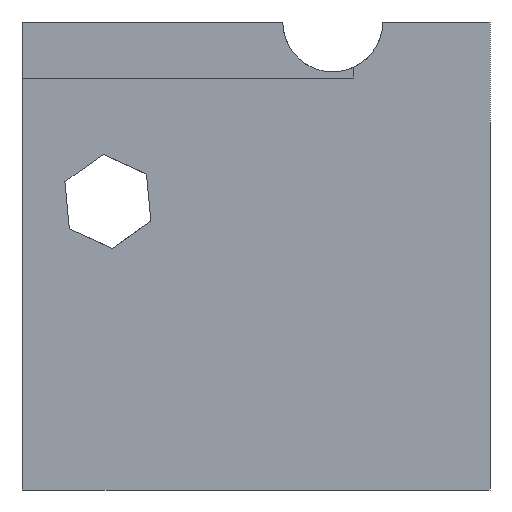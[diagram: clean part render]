
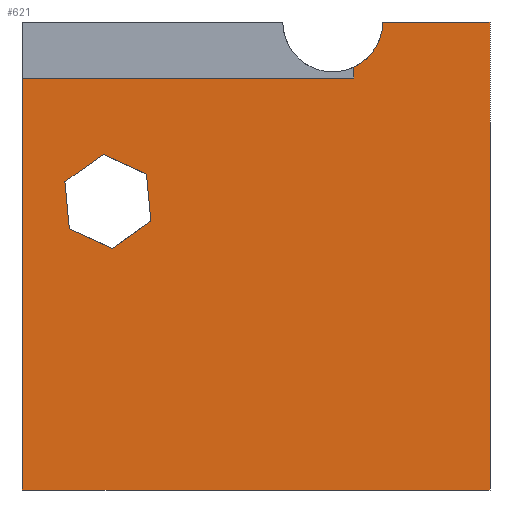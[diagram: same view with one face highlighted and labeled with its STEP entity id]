
A CAD part, front view. The second image highlights one B-rep face of the part: STEP entity #621.
In plain terms, the highlighted planar face has unit normal (0, -1, 0).
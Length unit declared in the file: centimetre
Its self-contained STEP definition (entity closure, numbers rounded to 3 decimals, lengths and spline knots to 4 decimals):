
#19 = DIRECTION ( 'NONE',  ( 0., 1., 0. ) ) ;
#23 = CARTESIAN_POINT ( 'NONE',  ( 0., 0., 880.2237 ) ) ;
#33 = CARTESIAN_POINT ( 'NONE',  ( 0., 0., 1000. ) ) ;
#40 = CARTESIAN_POINT ( 'NONE',  ( 101.0527, 0., 558.0034 ) ) ;
#43 = VECTOR ( 'NONE', #482, 100. ) ;
#83 = AXIS2_PLACEMENT_3D ( 'NONE', #1157, #19, #411 ) ;
#87 = VECTOR ( 'NONE', #1283, 100. ) ;
#105 = VERTEX_POINT ( 'NONE', #892 ) ;
#121 = DIRECTION ( 'NONE',  ( 1., 0., 0. ) ) ;
#140 = VERTEX_POINT ( 'NONE', #23 ) ;
#171 = VECTOR ( 'NONE', #1034, 100. ) ;
#179 = CARTESIAN_POINT ( 'NONE',  ( 275.4172, 0., 574.3242 ) ) ;
#189 = ORIENTED_EDGE ( 'NONE', *, *, #387, .T. ) ;
#210 = ORIENTED_EDGE ( 'NONE', *, *, #1063, .F. ) ;
#237 = LINE ( 'NONE', #1206, #287 ) ;
#241 = LINE ( 'NONE', #1503, #1721 ) ;
#258 = ORIENTED_EDGE ( 'NONE', *, *, #2202, .T. ) ;
#287 = VECTOR ( 'NONE', #1545, 100. ) ;
#302 = LINE ( 'NONE', #1038, #1918 ) ;
#356 = DIRECTION ( 'NONE',  ( 0.816, 0., 0.579 ) ) ;
#372 = ORIENTED_EDGE ( 'NONE', *, *, #717, .F. ) ;
#387 = EDGE_CURVE ( 'NONE', #1800, #140, #1917, .T. ) ;
#394 = VECTOR ( 'NONE', #427, 100. ) ;
#398 = DIRECTION ( 'NONE',  ( -0.093, 0., 0.996 ) ) ;
#411 = DIRECTION ( 'NONE',  ( 0., 0., 1. ) ) ;
#421 = EDGE_CURVE ( 'NONE', #2337, #895, #1345, .T. ) ;
#427 = DIRECTION ( 'NONE',  ( 1., 0., 0. ) ) ;
#482 = DIRECTION ( 'NONE',  ( -0.816, 0., -0.579 ) ) ;
#486 = VERTEX_POINT ( 'NONE', #40 ) ;
#494 = DIRECTION ( 'NONE',  ( 0., 0., 1. ) ) ;
#508 = CARTESIAN_POINT ( 'NONE',  ( 708.7469, 0., 903.1499 ) ) ;
#549 = CIRCLE ( 'NONE', #83, 106.7212 ) ;
#558 = ORIENTED_EDGE ( 'NONE', *, *, #1621, .F. ) ;
#561 = CARTESIAN_POINT ( 'NONE',  ( 275.4172, 0., 574.3242 ) ) ;
#564 = EDGE_LOOP ( 'NONE', ( #1677, #1236, #372, #634, #888, #2170 ) ) ;
#574 = CARTESIAN_POINT ( 'NONE',  ( 192.9464, 0., 515.8291 ) ) ;
#591 = DIRECTION ( 'NONE',  ( -1., 0., 0. ) ) ;
#621 = ADVANCED_FACE ( 'NONE', ( #811, #669 ), #1417, .F. ) ;
#634 = ORIENTED_EDGE ( 'NONE', *, *, #2360, .F. ) ;
#655 = VERTEX_POINT ( 'NONE', #179 ) ;
#669 = FACE_OUTER_BOUND ( 'NONE', #2101, .T. ) ;
#704 = VERTEX_POINT ( 'NONE', #508 ) ;
#717 = EDGE_CURVE ( 'NONE', #2200, #655, #1049, .T. ) ;
#741 = LINE ( 'NONE', #33, #87 ) ;
#762 = CARTESIAN_POINT ( 'NONE',  ( 91.6298, 0., 658.6728 ) ) ;
#794 = CARTESIAN_POINT ( 'NONE',  ( 708.7469, 0., 880.2237 ) ) ;
#811 = FACE_BOUND ( 'NONE', #564, .T. ) ;
#827 = CARTESIAN_POINT ( 'NONE',  ( 0., 0., 0. ) ) ;
#839 = VERTEX_POINT ( 'NONE', #1104 ) ;
#853 = EDGE_CURVE ( 'NONE', #140, #2337, #741, .T. ) ;
#888 = ORIENTED_EDGE ( 'NONE', *, *, #974, .F. ) ;
#892 = CARTESIAN_POINT ( 'NONE',  ( 770.6409, 0., 1000. ) ) ;
#895 = VERTEX_POINT ( 'NONE', #1675 ) ;
#918 = EDGE_CURVE ( 'NONE', #655, #2393, #942, .T. ) ;
#942 = LINE ( 'NONE', #561, #2407 ) ;
#974 = EDGE_CURVE ( 'NONE', #2230, #486, #237, .T. ) ;
#1034 = DIRECTION ( 'NONE',  ( 0.909, 0., -0.417 ) ) ;
#1038 = CARTESIAN_POINT ( 'NONE',  ( 0., 0., 1000. ) ) ;
#1049 = LINE ( 'NONE', #1660, #1850 ) ;
#1063 = EDGE_CURVE ( 'NONE', #839, #895, #2117, .T. ) ;
#1104 = CARTESIAN_POINT ( 'NONE',  ( 1000., 0., 1000. ) ) ;
#1149 = CARTESIAN_POINT ( 'NONE',  ( 0., 0., 0. ) ) ;
#1157 = CARTESIAN_POINT ( 'NONE',  ( 663.9197, 0., 1000. ) ) ;
#1168 = AXIS2_PLACEMENT_3D ( 'NONE', #2125, #1383, #494 ) ;
#1206 = CARTESIAN_POINT ( 'NONE',  ( 91.6298, 0., 658.6728 ) ) ;
#1236 = ORIENTED_EDGE ( 'NONE', *, *, #918, .F. ) ;
#1283 = DIRECTION ( 'NONE',  ( 0., 0., -1. ) ) ;
#1345 = LINE ( 'NONE', #1149, #394 ) ;
#1383 = DIRECTION ( 'NONE',  ( 0., 1., 0. ) ) ;
#1413 = VERTEX_POINT ( 'NONE', #2262 ) ;
#1417 = PLANE ( 'NONE',  #1168 ) ;
#1503 = CARTESIAN_POINT ( 'NONE',  ( 265.9943, 0., 674.9936 ) ) ;
#1519 = VECTOR ( 'NONE', #1906, 100. ) ;
#1542 = LINE ( 'NONE', #1819, #2315 ) ;
#1545 = DIRECTION ( 'NONE',  ( 0.093, 0., -0.996 ) ) ;
#1588 = CARTESIAN_POINT ( 'NONE',  ( 265.9943, 0., 674.9936 ) ) ;
#1590 = EDGE_CURVE ( 'NONE', #1413, #2230, #2157, .T. ) ;
#1621 = EDGE_CURVE ( 'NONE', #105, #839, #302, .T. ) ;
#1660 = CARTESIAN_POINT ( 'NONE',  ( 192.9464, 0., 515.8291 ) ) ;
#1675 = CARTESIAN_POINT ( 'NONE',  ( 1000., 0., 0. ) ) ;
#1677 = ORIENTED_EDGE ( 'NONE', *, *, #2186, .F. ) ;
#1721 = VECTOR ( 'NONE', #2263, 100. ) ;
#1788 = CARTESIAN_POINT ( 'NONE',  ( 101.0527, 0., 558.0034 ) ) ;
#1800 = VERTEX_POINT ( 'NONE', #794 ) ;
#1802 = LINE ( 'NONE', #1788, #171 ) ;
#1819 = CARTESIAN_POINT ( 'NONE',  ( 708.7469, 0., 880.2237 ) ) ;
#1831 = CARTESIAN_POINT ( 'NONE',  ( 174.1007, 0., 717.1679 ) ) ;
#1850 = VECTOR ( 'NONE', #356, 100. ) ;
#1906 = DIRECTION ( 'NONE',  ( 0., 0., -1. ) ) ;
#1917 = LINE ( 'NONE', #2267, #2367 ) ;
#1918 = VECTOR ( 'NONE', #121, 100. ) ;
#2058 = EDGE_CURVE ( 'NONE', #1800, #704, #1542, .T. ) ;
#2098 = CARTESIAN_POINT ( 'NONE',  ( 1000., 0., 1000. ) ) ;
#2101 = EDGE_LOOP ( 'NONE', ( #2352, #189, #2194, #2339, #210, #558, #258 ) ) ;
#2117 = LINE ( 'NONE', #2098, #1519 ) ;
#2125 = CARTESIAN_POINT ( 'NONE',  ( 0., 0., 1000. ) ) ;
#2141 = DIRECTION ( 'NONE',  ( 0., 0., 1. ) ) ;
#2157 = LINE ( 'NONE', #1831, #43 ) ;
#2170 = ORIENTED_EDGE ( 'NONE', *, *, #1590, .F. ) ;
#2186 = EDGE_CURVE ( 'NONE', #2393, #1413, #241, .T. ) ;
#2194 = ORIENTED_EDGE ( 'NONE', *, *, #853, .T. ) ;
#2200 = VERTEX_POINT ( 'NONE', #574 ) ;
#2202 = EDGE_CURVE ( 'NONE', #105, #704, #549, .T. ) ;
#2230 = VERTEX_POINT ( 'NONE', #762 ) ;
#2262 = CARTESIAN_POINT ( 'NONE',  ( 174.1007, 0., 717.1679 ) ) ;
#2263 = DIRECTION ( 'NONE',  ( -0.909, 0., 0.417 ) ) ;
#2267 = CARTESIAN_POINT ( 'NONE',  ( 708.7469, 0., 880.2237 ) ) ;
#2315 = VECTOR ( 'NONE', #2141, 100. ) ;
#2337 = VERTEX_POINT ( 'NONE', #827 ) ;
#2339 = ORIENTED_EDGE ( 'NONE', *, *, #421, .T. ) ;
#2352 = ORIENTED_EDGE ( 'NONE', *, *, #2058, .F. ) ;
#2360 = EDGE_CURVE ( 'NONE', #486, #2200, #1802, .T. ) ;
#2367 = VECTOR ( 'NONE', #591, 100. ) ;
#2393 = VERTEX_POINT ( 'NONE', #1588 ) ;
#2407 = VECTOR ( 'NONE', #398, 100. ) ;
